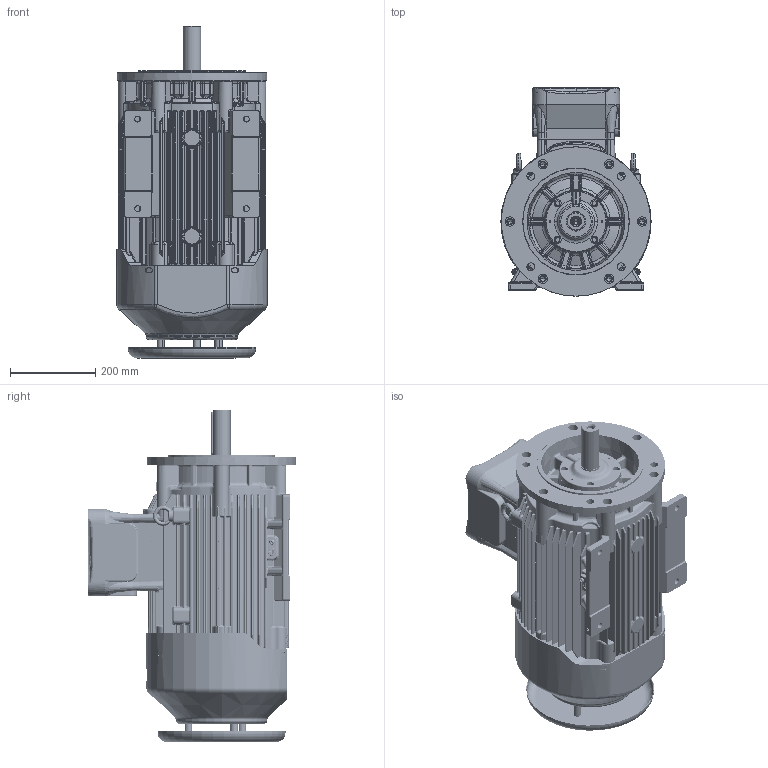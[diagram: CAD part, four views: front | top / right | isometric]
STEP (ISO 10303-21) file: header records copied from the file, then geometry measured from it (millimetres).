
FILE_DESCRIPTION (( 'STEP AP214' ), '1' );
FILE_NAME ('6RD160MB4E3 IM2011.STEP', '2021-08-09T07:31:29', ( '' ), ( '' ), 'SwSTEP 2.0', 'SolidWorks 2018', '' );
FILE_SCHEMA (( 'AUTOMOTIVE_DESIGN' ));
Length unit declared in the file: millimetre
Products named in the file (1): 6RD160MB4E3 IM2011
Bounding box: 352 x 488.5 x 778 mm (x, y, z)
Volume: 54398552.2 mm3; surface area: 1946555.3 mm2
Topology: 5 solids, 24 shells, 4804 faces, 11523 edges, 6637 vertices
Faces by surface type: cylinder 1767, bspline 1049, plane 865, torus 610, sphere 297, cone 216
Entity records: 224185 total; most frequent: CARTESIAN_POINT 120561, ORIENTED_EDGE 22420, DIRECTION 21415, EDGE_CURVE 11210, AXIS2_PLACEMENT_3D 9099, VERTEX_POINT 6637, CIRCLE 5343, EDGE_LOOP 5023
